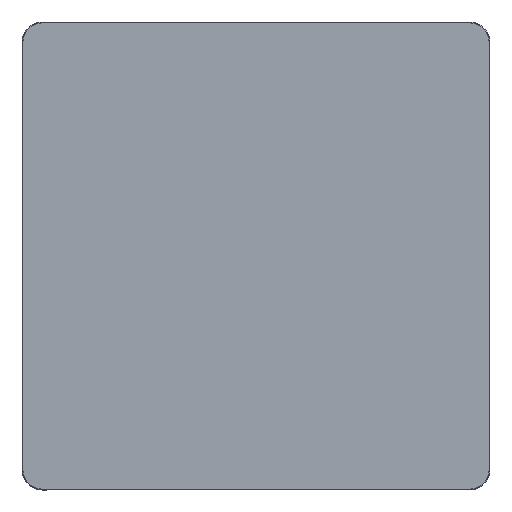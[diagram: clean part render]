
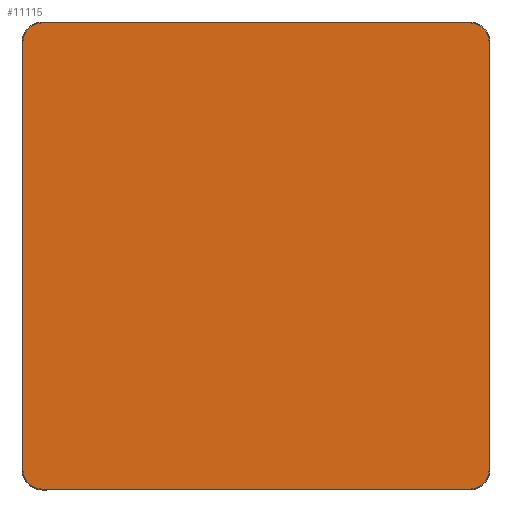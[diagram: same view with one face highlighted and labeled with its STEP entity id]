
A CAD part, top view. The second image highlights one B-rep face of the part: STEP entity #11115.
In plain terms, the highlighted planar face has unit normal (0, 0, 1).
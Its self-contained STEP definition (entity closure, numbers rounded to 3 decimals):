
#11040=CARTESIAN_POINT('',(0.,0.,20.));
#11041=DIRECTION('',(1.,0.,0.));
#11042=DIRECTION('',(0.,0.,1.));
#11043=AXIS2_PLACEMENT_3D('',#11040,#11042,#11041);
#11044=PLANE('',#11043);
#11045=CARTESIAN_POINT('',(-365.,-398.5,20.));
#11046=VERTEX_POINT('',#11045);
#11047=CARTESIAN_POINT('',(365.,-398.5,20.));
#11048=VERTEX_POINT('',#11047);
#11049=CARTESIAN_POINT('',(-365.,-398.5,20.));
#11050=DIRECTION('',(1.,0.,0.));
#11051=VECTOR('',#11050,730.);
#11052=LINE('',#11049,#11051);
#11053=EDGE_CURVE('',#11046,#11048,#11052,.T.);
#11054=ORIENTED_EDGE('E105',*,*,#11053,.T.);
#11055=CARTESIAN_POINT('',(398.5,-365.,20.));
#11056=VERTEX_POINT('',#11055);
#11057=CARTESIAN_POINT('',(365.,-365.,20.));
#11058=DIRECTION('',(0.,-1.,0.));
#11059=DIRECTION('',(0.,0.,1.));
#11060=AXIS2_PLACEMENT_3D('',#11057,#11059,#11058);
#11061=CIRCLE('',#11060,33.5);
#11062=EDGE_CURVE('',#11048,#11056,#11061,.T.);
#11063=ORIENTED_EDGE('E107',*,*,#11062,.T.);
#11064=CARTESIAN_POINT('',(398.5,365.,20.));
#11065=VERTEX_POINT('',#11064);
#11066=CARTESIAN_POINT('',(398.5,-365.,20.));
#11067=DIRECTION('',(0.,1.,0.));
#11068=VECTOR('',#11067,730.);
#11069=LINE('',#11066,#11068);
#11070=EDGE_CURVE('',#11056,#11065,#11069,.T.);
#11071=ORIENTED_EDGE('E109',*,*,#11070,.T.);
#11072=CARTESIAN_POINT('',(365.,398.5,20.));
#11073=VERTEX_POINT('',#11072);
#11074=CARTESIAN_POINT('',(365.,365.,20.));
#11075=DIRECTION('',(1.,0.,0.));
#11076=DIRECTION('',(0.,0.,1.));
#11077=AXIS2_PLACEMENT_3D('',#11074,#11076,#11075);
#11078=CIRCLE('',#11077,33.5);
#11079=EDGE_CURVE('',#11065,#11073,#11078,.T.);
#11080=ORIENTED_EDGE('E111',*,*,#11079,.T.);
#11081=CARTESIAN_POINT('',(-365.,398.5,20.));
#11082=VERTEX_POINT('',#11081);
#11083=CARTESIAN_POINT('',(365.,398.5,20.));
#11084=DIRECTION('',(-1.,0.,0.));
#11085=VECTOR('',#11084,730.);
#11086=LINE('',#11083,#11085);
#11087=EDGE_CURVE('',#11073,#11082,#11086,.T.);
#11088=ORIENTED_EDGE('E113',*,*,#11087,.T.);
#11089=CARTESIAN_POINT('',(-398.5,365.,20.));
#11090=VERTEX_POINT('',#11089);
#11091=CARTESIAN_POINT('',(-365.,365.,20.));
#11092=DIRECTION('',(0.,1.,0.));
#11093=DIRECTION('',(0.,0.,1.));
#11094=AXIS2_PLACEMENT_3D('',#11091,#11093,#11092);
#11095=CIRCLE('',#11094,33.5);
#11096=EDGE_CURVE('',#11082,#11090,#11095,.T.);
#11097=ORIENTED_EDGE('E115',*,*,#11096,.T.);
#11098=CARTESIAN_POINT('',(-398.5,-365.,20.));
#11099=VERTEX_POINT('',#11098);
#11100=CARTESIAN_POINT('',(-398.5,365.,20.));
#11101=DIRECTION('',(0.,-1.,0.));
#11102=VECTOR('',#11101,730.);
#11103=LINE('',#11100,#11102);
#11104=EDGE_CURVE('',#11090,#11099,#11103,.T.);
#11105=ORIENTED_EDGE('E117',*,*,#11104,.T.);
#11106=CARTESIAN_POINT('',(-365.,-365.,20.));
#11107=DIRECTION('',(-1.,0.,0.));
#11108=DIRECTION('',(0.,0.,1.));
#11109=AXIS2_PLACEMENT_3D('',#11106,#11108,#11107);
#11110=CIRCLE('',#11109,33.5);
#11111=EDGE_CURVE('',#11099,#11046,#11110,.T.);
#11112=ORIENTED_EDGE('E119',*,*,#11111,.T.);
#11113=EDGE_LOOP('',(#11054,#11063,#11071,#11080,#11088,#11097,#11105,#11112));
#11114=FACE_OUTER_BOUND('',#11113,.T.);
#11115=ADVANCED_FACE('F2',(#11114),#11044,.T.);
